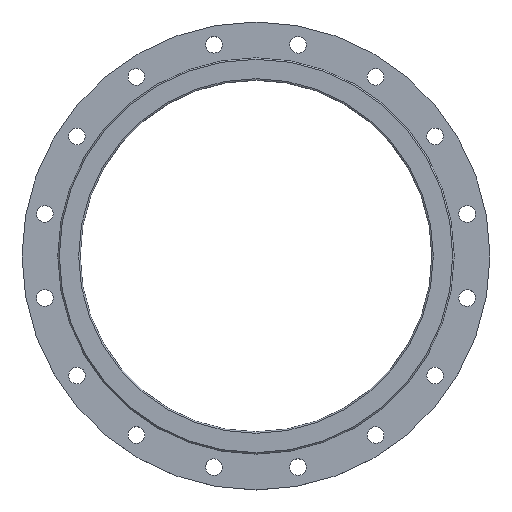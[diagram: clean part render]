
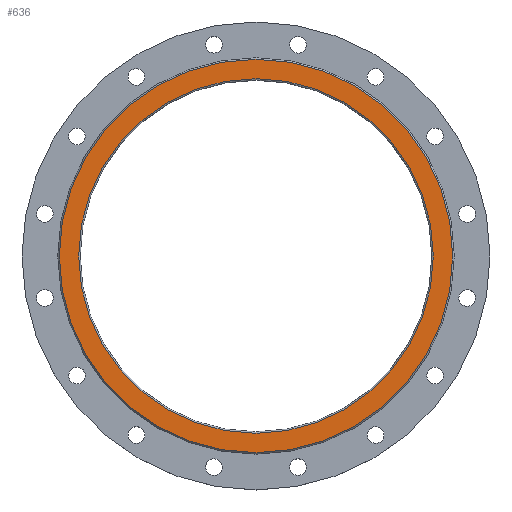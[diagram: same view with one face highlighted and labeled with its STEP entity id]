
A CAD part, top view. The second image highlights one B-rep face of the part: STEP entity #636.
In plain terms, the highlighted planar face has unit normal (0, 0, 1).
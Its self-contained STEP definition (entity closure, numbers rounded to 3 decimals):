
#37=FACE_BOUND('',#125,.T.);
#57=PLANE('',#742);
#80=FACE_OUTER_BOUND('',#124,.T.);
#124=EDGE_LOOP('',(#549,#550));
#125=EDGE_LOOP('',(#551));
#244=CIRCLE('',#733,390.);
#245=CIRCLE('',#734,390.);
#246=CIRCLE('',#736,351.6);
#313=VERTEX_POINT('',#1113);
#314=VERTEX_POINT('',#1114);
#315=VERTEX_POINT('',#1119);
#396=EDGE_CURVE('',#313,#314,#244,.T.);
#397=EDGE_CURVE('',#314,#313,#245,.T.);
#399=EDGE_CURVE('',#315,#315,#246,.T.);
#549=ORIENTED_EDGE('',*,*,#396,.T.);
#550=ORIENTED_EDGE('',*,*,#397,.T.);
#551=ORIENTED_EDGE('',*,*,#399,.F.);
#636=ADVANCED_FACE('',(#80,#37),#57,.T.);
#733=AXIS2_PLACEMENT_3D('',#1115,#917,#918);
#734=AXIS2_PLACEMENT_3D('',#1116,#919,#920);
#736=AXIS2_PLACEMENT_3D('',#1120,#924,#925);
#742=AXIS2_PLACEMENT_3D('',#1130,#937,#938);
#917=DIRECTION('center_axis',(0.,0.,1.));
#918=DIRECTION('ref_axis',(1.,0.,0.));
#919=DIRECTION('center_axis',(0.,0.,1.));
#920=DIRECTION('ref_axis',(1.,0.,0.));
#924=DIRECTION('center_axis',(0.,0.,1.));
#925=DIRECTION('ref_axis',(-1.,0.,0.));
#937=DIRECTION('center_axis',(0.,0.,1.));
#938=DIRECTION('ref_axis',(1.,0.,0.));
#1113=CARTESIAN_POINT('',(390.,0.,0.));
#1114=CARTESIAN_POINT('',(-390.,0.,0.));
#1115=CARTESIAN_POINT('Origin',(0.,0.,0.));
#1116=CARTESIAN_POINT('Origin',(0.,0.,0.));
#1119=CARTESIAN_POINT('',(351.6,0.,0.));
#1120=CARTESIAN_POINT('Origin',(0.,0.,0.));
#1130=CARTESIAN_POINT('Origin',(0.,0.,0.));
